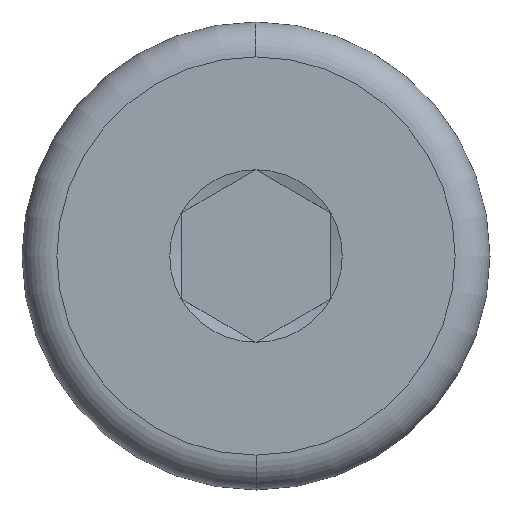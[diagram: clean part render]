
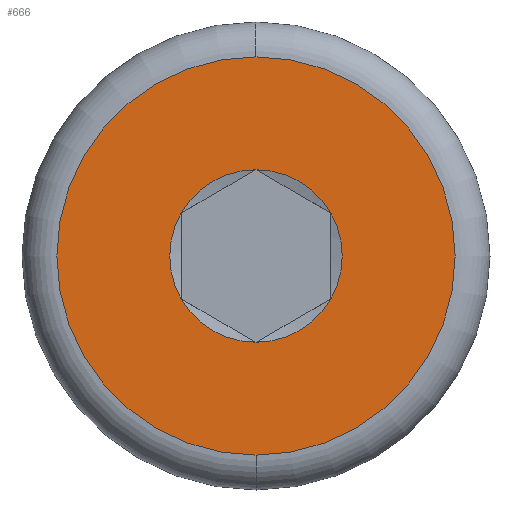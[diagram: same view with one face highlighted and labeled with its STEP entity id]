
A CAD part, left-side view. The second image highlights one B-rep face of the part: STEP entity #666.
In plain terms, the highlighted planar face has unit normal (-1, 0, 0).
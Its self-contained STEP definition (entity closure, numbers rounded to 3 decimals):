
#2 = DIRECTION ( 'NONE',  ( 1., 0., 0. ) ) ;
#14 = CARTESIAN_POINT ( 'NONE',  ( 0., 0., 4. ) ) ;
#42 = ORIENTED_EDGE ( 'NONE', *, *, #560, .F. ) ;
#51 = CARTESIAN_POINT ( 'NONE',  ( 0., 0., 0. ) ) ;
#56 = CARTESIAN_POINT ( 'NONE',  ( 0., 1.5, 0.866 ) ) ;
#57 = CARTESIAN_POINT ( 'NONE',  ( 0., 0., -4. ) ) ;
#60 = CIRCLE ( 'NONE', #449, 1.732 ) ;
#66 = DIRECTION ( 'NONE',  ( 0., 0., -1. ) ) ;
#68 = CARTESIAN_POINT ( 'NONE',  ( 0., -1.5, 0.866 ) ) ;
#76 = AXIS2_PLACEMENT_3D ( 'NONE', #263, #626, #582 ) ;
#104 = CARTESIAN_POINT ( 'NONE',  ( 0., 0., -1.732 ) ) ;
#106 = CIRCLE ( 'NONE', #572, 1.732 ) ;
#122 = AXIS2_PLACEMENT_3D ( 'NONE', #445, #390, #239 ) ;
#127 = VERTEX_POINT ( 'NONE', #68 ) ;
#130 = ORIENTED_EDGE ( 'NONE', *, *, #439, .T. ) ;
#133 = VERTEX_POINT ( 'NONE', #57 ) ;
#136 = VERTEX_POINT ( 'NONE', #14 ) ;
#140 = CIRCLE ( 'NONE', #577, 1.732 ) ;
#142 = DIRECTION ( 'NONE',  ( 0., 0., -1. ) ) ;
#145 = VERTEX_POINT ( 'NONE', #104 ) ;
#150 = EDGE_LOOP ( 'NONE', ( #130, #280, #172, #441, #411, #435 ) ) ;
#166 = DIRECTION ( 'NONE',  ( 1., 0., 0. ) ) ;
#172 = ORIENTED_EDGE ( 'NONE', *, *, #492, .T. ) ;
#178 = FACE_BOUND ( 'NONE', #150, .T. ) ;
#184 = CARTESIAN_POINT ( 'NONE',  ( 0., 0., 0. ) ) ;
#194 = EDGE_CURVE ( 'NONE', #221, #145, #623, .T. ) ;
#196 = EDGE_CURVE ( 'NONE', #133, #136, #294, .T. ) ;
#221 = VERTEX_POINT ( 'NONE', #278 ) ;
#235 = PLANE ( 'NONE',  #613 ) ;
#239 = DIRECTION ( 'NONE',  ( 0., 0., -1. ) ) ;
#263 = CARTESIAN_POINT ( 'NONE',  ( 0., 0., 0. ) ) ;
#273 = DIRECTION ( 'NONE',  ( 0., 0., -1. ) ) ;
#278 = CARTESIAN_POINT ( 'NONE',  ( 0., -1.5, -0.866 ) ) ;
#279 = EDGE_CURVE ( 'NONE', #340, #498, #664, .T. ) ;
#280 = ORIENTED_EDGE ( 'NONE', *, *, #602, .T. ) ;
#289 = VERTEX_POINT ( 'NONE', #500 ) ;
#290 = FACE_OUTER_BOUND ( 'NONE', #444, .T. ) ;
#294 = CIRCLE ( 'NONE', #325, 4. ) ;
#311 = AXIS2_PLACEMENT_3D ( 'NONE', #51, #2, #273 ) ;
#325 = AXIS2_PLACEMENT_3D ( 'NONE', #595, #662, #332 ) ;
#332 = DIRECTION ( 'NONE',  ( 0., 0., -1. ) ) ;
#334 = CARTESIAN_POINT ( 'NONE',  ( 0., 0., 0. ) ) ;
#340 = VERTEX_POINT ( 'NONE', #556 ) ;
#390 = DIRECTION ( 'NONE',  ( 1., 0., 0. ) ) ;
#404 = DIRECTION ( 'NONE',  ( 1., 0., 0. ) ) ;
#411 = ORIENTED_EDGE ( 'NONE', *, *, #522, .T. ) ;
#423 = CARTESIAN_POINT ( 'NONE',  ( 0., 0., 0. ) ) ;
#435 = ORIENTED_EDGE ( 'NONE', *, *, #279, .T. ) ;
#439 = EDGE_CURVE ( 'NONE', #498, #289, #60, .T. ) ;
#441 = ORIENTED_EDGE ( 'NONE', *, *, #194, .T. ) ;
#444 = EDGE_LOOP ( 'NONE', ( #617, #42 ) ) ;
#445 = CARTESIAN_POINT ( 'NONE',  ( 0., 0., 0. ) ) ;
#449 = AXIS2_PLACEMENT_3D ( 'NONE', #614, #404, #142 ) ;
#484 = DIRECTION ( 'NONE',  ( 1., 0., 0. ) ) ;
#489 = DIRECTION ( 'NONE',  ( -1., 0., 0. ) ) ;
#492 = EDGE_CURVE ( 'NONE', #127, #221, #561, .T. ) ;
#498 = VERTEX_POINT ( 'NONE', #56 ) ;
#500 = CARTESIAN_POINT ( 'NONE',  ( 0., 0., 1.732 ) ) ;
#522 = EDGE_CURVE ( 'NONE', #145, #340, #106, .T. ) ;
#534 = DIRECTION ( 'NONE',  ( 1., 0., 0. ) ) ;
#546 = DIRECTION ( 'NONE',  ( 0., 0., 1. ) ) ;
#553 = AXIS2_PLACEMENT_3D ( 'NONE', #184, #484, #651 ) ;
#556 = CARTESIAN_POINT ( 'NONE',  ( 0., 1.5, -0.866 ) ) ;
#560 = EDGE_CURVE ( 'NONE', #136, #133, #591, .T. ) ;
#561 = CIRCLE ( 'NONE', #311, 1.732 ) ;
#572 = AXIS2_PLACEMENT_3D ( 'NONE', #423, #534, #66 ) ;
#577 = AXIS2_PLACEMENT_3D ( 'NONE', #640, #166, #588 ) ;
#582 = DIRECTION ( 'NONE',  ( 0., 0., -1. ) ) ;
#588 = DIRECTION ( 'NONE',  ( 0., 0., -1. ) ) ;
#591 = CIRCLE ( 'NONE', #76, 4. ) ;
#595 = CARTESIAN_POINT ( 'NONE',  ( 0., 0., 0. ) ) ;
#602 = EDGE_CURVE ( 'NONE', #289, #127, #140, .T. ) ;
#613 = AXIS2_PLACEMENT_3D ( 'NONE', #334, #489, #546 ) ;
#614 = CARTESIAN_POINT ( 'NONE',  ( 0., 0., 0. ) ) ;
#617 = ORIENTED_EDGE ( 'NONE', *, *, #196, .F. ) ;
#623 = CIRCLE ( 'NONE', #122, 1.732 ) ;
#626 = DIRECTION ( 'NONE',  ( 1., 0., 0. ) ) ;
#640 = CARTESIAN_POINT ( 'NONE',  ( 0., 0., 0. ) ) ;
#651 = DIRECTION ( 'NONE',  ( 0., 0., -1. ) ) ;
#662 = DIRECTION ( 'NONE',  ( 1., 0., 0. ) ) ;
#664 = CIRCLE ( 'NONE', #553, 1.732 ) ;
#666 = ADVANCED_FACE ( 'NONE', ( #178, #290 ), #235, .T. ) ;
